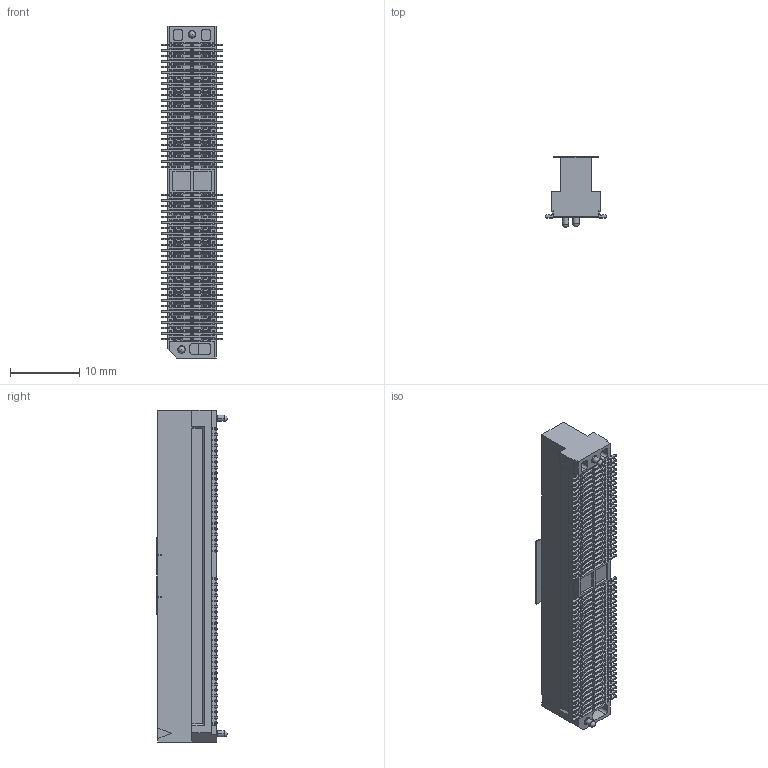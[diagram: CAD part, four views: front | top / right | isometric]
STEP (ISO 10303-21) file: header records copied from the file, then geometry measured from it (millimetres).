
FILE_DESCRIPTION (( 'STEP AP214' ), '1' );
FILE_NAME ('8208-2X50C30DP1T-S.STEP', '2025-09-19T10:35:24', ( '' ), ( '' ), 'SwSTEP 2.0', 'SolidWorks 2011', '' );
FILE_SCHEMA (( 'AUTOMOTIVE_DESIGN' ));
Length unit declared in the file: millimetre
Products named in the file (1): 8208-2X50C30DP1T-S
Bounding box: 8.82 x 10.15 x 47.8 mm (x, y, z)
Volume: 1625.9 mm3; surface area: 2925.1 mm2
Topology: 2 solids, 6 shells, 5912 faces, 16580 edges, 10787 vertices
Faces by surface type: plane 4340, cylinder 1566, torus 4, sphere 2
Entity records: 253301 total; most frequent: CARTESIAN_POINT 33270, ORIENTED_EDGE 33148, DIRECTION 31541, EDGE_CURVE 16574, LINE 13433, VECTOR 13433, VERTEX_POINT 10783, AXIS2_PLACEMENT_3D 9054
